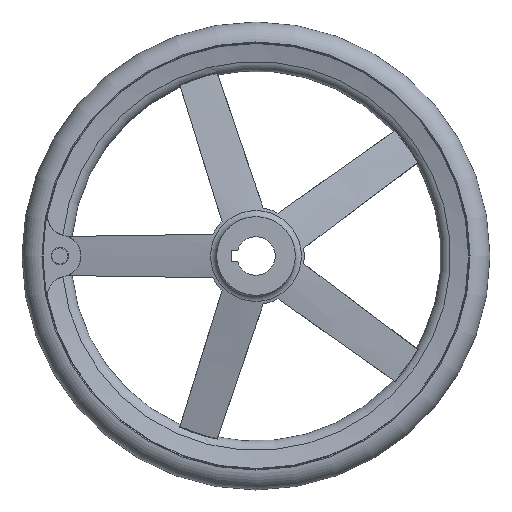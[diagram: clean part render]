
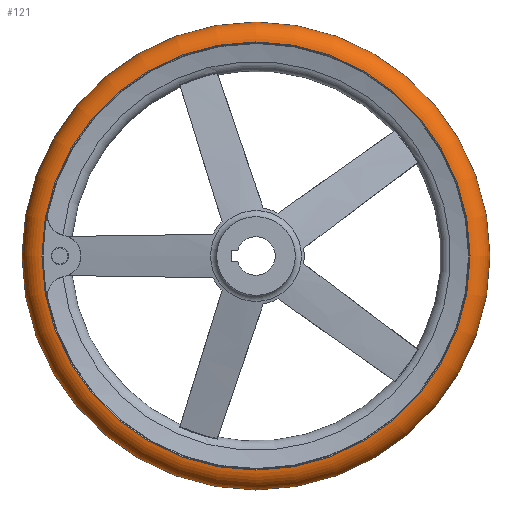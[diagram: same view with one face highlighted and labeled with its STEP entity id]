
A CAD part, left-side view. The second image highlights one B-rep face of the part: STEP entity #121.
In plain terms, the highlighted toroidal (fillet/blend) face has major radius 143.487 mm and minor radius 14.013 mm.
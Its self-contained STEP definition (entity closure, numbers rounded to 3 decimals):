
#121 = ADVANCED_FACE( '', ( #251, #252, #253 ), #254, .T. );
#251 = FACE_BOUND( '', #417, .T. );
#252 = FACE_OUTER_BOUND( '', #418, .T. );
#253 = FACE_OUTER_BOUND( '', #419, .T. );
#254 = TOROIDAL_SURFACE( '', #420, 143.487, 14.013 );
#417 = VERTEX_LOOP( '', #913 );
#418 = EDGE_LOOP( '', ( #914 ) );
#419 = EDGE_LOOP( '', ( #915 ) );
#420 = AXIS2_PLACEMENT_3D( '', #916, #917, #918 );
#913 = VERTEX_POINT( '', #1209 );
#914 = ORIENTED_EDGE( '', *, *, #1210, .T. );
#915 = ORIENTED_EDGE( '', *, *, #1174, .F. );
#916 = CARTESIAN_POINT( '', ( 42., 0., 0. ) );
#917 = DIRECTION( '', ( 1., 0., 0. ) );
#918 = DIRECTION( '', ( 0., 1., 0. ) );
#1174 = EDGE_CURVE( '', #1445, #1445, #1446, .T. );
#1209 = CARTESIAN_POINT( '', ( 42., 157.5, 0. ) );
#1210 = EDGE_CURVE( '', #1493, #1493, #1494, .T. );
#1445 = VERTEX_POINT( '', #2265 );
#1446 = CIRCLE( '', #2266, 144.083 );
#1493 = VERTEX_POINT( '', #2456 );
#1494 = CIRCLE( '', #2457, 144.083 );
#2265 = CARTESIAN_POINT( '', ( 56., 144.083, 0. ) );
#2266 = AXIS2_PLACEMENT_3D( '', #2687, #2688, #2689 );
#2456 = CARTESIAN_POINT( '', ( 28., 144.083, 0. ) );
#2457 = AXIS2_PLACEMENT_3D( '', #2733, #2734, #2735 );
#2687 = CARTESIAN_POINT( '', ( 56., 0., 0. ) );
#2688 = DIRECTION( '', ( 1., 0., 0. ) );
#2689 = DIRECTION( '', ( 0., 1., 0. ) );
#2733 = CARTESIAN_POINT( '', ( 28., 0., 0. ) );
#2734 = DIRECTION( '', ( 1., 0., 0. ) );
#2735 = DIRECTION( '', ( 0., 1., 0. ) );
